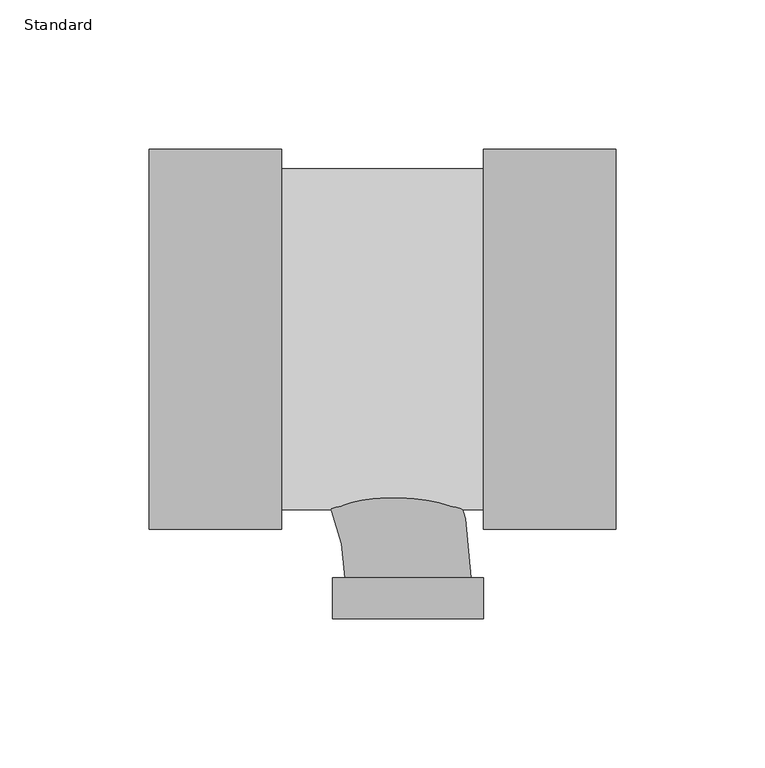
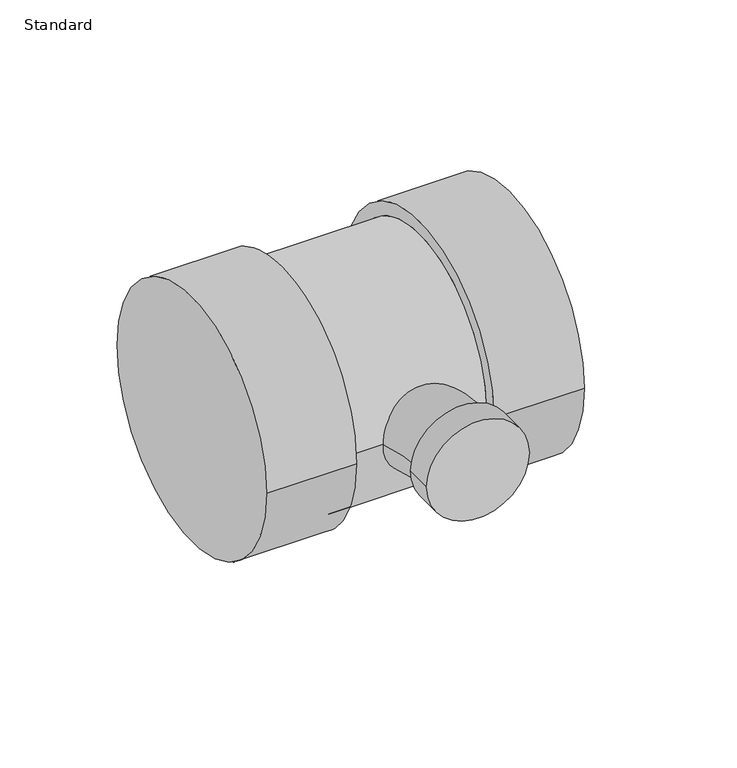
"""IFC4 building model written with IfcOpenShell, lengths in millimetres: pipe fitting geometry, EG-RCAN Té sanitaire de réduction - PVC - Nom. 40 - DWV : Standard."""

from ifc_helpers import new_model, si_unit, point, frame, origin, place, context, project, spatial, circle_curve, ellipse_curve, trimmed, source, transform, mapped, element, save
from ifc_brep_helpers import plane_surface, cylinder_surface, revolved_surface, advanced_brep


def standard_27500dea(model_context):
    return source(origin(), model_context, "Body", "AdvancedBrep", [
        advanced_brep(
        [(25.2677492, -63.754, 0.0), (25.2677492, 63.754, 0.0), (25.2677492, -57.15, 0.0), (25.2677492, 57.15, 0.0), (69.7177492, -63.754, 0.0), (69.7177492, 63.754, 0.0), (-42.4599062, 57.15, 0.0), (-42.4599062, -57.15, 0.0), (-86.9099063, -63.754, 0.0), (-86.9099062, 63.754, 0.0), (-42.4599063, -63.754, 0.0), (-42.4599062, 63.754, 0.0)],
        [
            (0, 1, circle_curve(frame((25.2677492, 0.0, 0.0), z_axis=(-1.0, 0.0, 0.0), x_axis=(0.0, 1.0, 0.0)), 63.754)),
            (1, 0, circle_curve(frame((25.2677492, 0.0, 0.0), z_axis=(-1.0, 0.0, 0.0), x_axis=(0.0, 1.0, 0.0)), 63.754)),
            (2, 3, circle_curve(frame((25.2677492, 0.0, 0.0), z_axis=(1.0, 0.0, 0.0), x_axis=(0.0, 0.0, -1.0)), 57.15)),
            (3, 2, circle_curve(frame((25.2677492, 0.0, 0.0), z_axis=(1.0, 0.0, 0.0), x_axis=(0.0, 0.0, 1.0)), 57.15)),
            (4, 5, circle_curve(frame((69.7177492, 0.0, 0.0), z_axis=(1.0, 0.0, 0.0), x_axis=(0.0, 1.0, 0.0)), 63.754)),
            (5, 4, circle_curve(frame((69.7177492, 0.0, 0.0), z_axis=(1.0, 0.0, 0.0), x_axis=(0.0, 1.0, 0.0)), 63.754)),
            (0, 4),
            (5, 1),
            (6, 3),
            (2, 7),
            (7, 6, circle_curve(frame((-42.4599063, 0.0, 0.0), z_axis=(1.0, 0.0, 0.0), x_axis=(0.0, 0.0, -1.0)), 57.15)),
            (6, 7, circle_curve(frame((-42.4599062, 0.0, 0.0), z_axis=(1.0, 0.0, 0.0), x_axis=(0.0, 0.0, 1.0)), 57.15)),
            (8, 9, circle_curve(frame((-86.9099062, 0.0, 0.0), z_axis=(-1.0, 0.0, 0.0), x_axis=(0.0, 1.0, 0.0)), 63.754)),
            (9, 8, circle_curve(frame((-86.9099062, 0.0, 0.0), z_axis=(-1.0, 0.0, 0.0), x_axis=(0.0, 1.0, 0.0)), 63.754)),
            (10, 11, circle_curve(frame((-42.4599062, 0.0, 0.0), z_axis=(1.0, 0.0, 0.0), x_axis=(0.0, 1.0, 0.0)), 63.754)),
            (11, 10, circle_curve(frame((-42.4599062, 0.0, 0.0), z_axis=(1.0, 0.0, 0.0), x_axis=(0.0, 1.0, 0.0)), 63.754)),
            (8, 10),
            (11, 9),
        ],
        [
            plane_surface(frame((25.2677492, 0.0, 0.0), z_axis=(-1.0, 0.0, 0.0), x_axis=(0.0, 0.0, 1.0))),
            plane_surface(frame((69.7177492, 0.0, 0.0), z_axis=(1.0, 0.0, 0.0), x_axis=(0.0, 0.0, 1.0))),
            cylinder_surface(frame((25.2677492, 0.0, 0.0), z_axis=(-1.0, 0.0, 0.0), x_axis=(0.0, 1.0, 0.0)), 63.754),
            cylinder_surface(frame((-42.4599062, 0.0, 0.0), z_axis=(1.0, 0.0, 0.0), x_axis=(0.0, 0.0, -1.0)), 57.15),
            cylinder_surface(frame((-42.4599062, 0.0, 0.0), z_axis=(1.0, 0.0, 0.0), x_axis=(0.0, 0.0, 1.0)), 57.15),
            plane_surface(frame((-86.9099062, 0.0, 0.0), z_axis=(-1.0, 0.0, 0.0), x_axis=(0.0, 0.0, 1.0))),
            plane_surface(frame((-42.4599062, 0.0, 0.0), z_axis=(1.0, 0.0, 0.0), x_axis=(0.0, 0.0, 1.0))),
            cylinder_surface(frame((-86.9099062, 0.0, 0.0), z_axis=(-1.0, 0.0, 0.0), x_axis=(0.0, 1.0, 0.0)), 63.754),
        ],
        [
            (0, [[1, 2], [3, 4]]),
            (1, [[5, 6]]),
            (2, [[-1, 7, -6, 8]]),
            (2, [[-2, -8, -5, -7]]),
            (3, [[9, -3, 10, 11]]),
            (4, [[-9, 12, -10, -4]]),
            (5, [[13, 14]]),
            (6, [[15, 16], [-11, -12]]),
            (7, [[-13, 17, -16, 18]]),
            (7, [[-14, -18, -15, -17]]),
        ],
    ),
        advanced_brep(
        [(-25.2664695, -80.0278583, 0.0), (25.2677492, -80.0274542, 0.0), (21.2047024, -80.0274867, 0.0), (-21.2034226, -80.0278258, 0.0), (-25.2663596, -93.7681708, 0.0), (25.2678591, -93.7677667, 0.0), (-80.0276562, -21.2040625, 0.0), (-80.0276562, 21.2040625, 0.0)],
        [
            (0, 1, circle_curve(frame((0.0006399, -80.0276562, 0.0), z_axis=(-7.99567824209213e-06, 0.9999999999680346, 0.0), x_axis=(0.9999999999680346, 7.99567824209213e-06, 0.0)), 25.2671094)),
            (1, 0, circle_curve(frame((0.0006399, -80.0276562, 0.0), z_axis=(-7.99567824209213e-06, 0.9999999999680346, 0.0), x_axis=(0.9999999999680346, 7.99567824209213e-06, 0.0)), 25.2671094)),
            (2, 3, circle_curve(frame((0.0006399, -80.0276562, 0.0), z_axis=(7.99567824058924e-06, -0.9999999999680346, 0.0), x_axis=(0.9999999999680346, 7.99567824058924e-06, 0.0)), 21.2040625)),
            (3, 2, circle_curve(frame((0.0006399, -80.0276562, 0.0), z_axis=(7.99567824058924e-06, -0.9999999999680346, 0.0), x_axis=(0.9999999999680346, 7.99567824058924e-06, 0.0)), 21.2040625)),
            (4, 5, circle_curve(frame((0.0007497, -93.7679687, 0.0), z_axis=(7.99567824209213e-06, -0.9999999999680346, 0.0), x_axis=(0.9999999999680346, 7.99567824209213e-06, 0.0)), 25.2671094)),
            (5, 4, circle_curve(frame((0.0007497, -93.7679687, 0.0), z_axis=(7.99567824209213e-06, -0.9999999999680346, 0.0), x_axis=(0.9999999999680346, 7.99567824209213e-06, 0.0)), 25.2671094)),
            (0, 4),
            (5, 1),
            (6, 7, circle_curve(frame((-80.0276562, 0.0, 0.0), z_axis=(-1.0, 0.0, 0.0), x_axis=(0.0, 1.0, 0.0)), 21.2040625)),
            (7, 6, circle_curve(frame((-80.0276562, 0.0, 0.0), z_axis=(-1.0, 0.0, 0.0), x_axis=(0.0, 1.0, 0.0)), 21.2040625)),
            (6, 3, circle_curve(frame((-80.0276562, -80.0282961, 0.0), z_axis=(0.0, 0.0, -1.0), x_axis=(0.0, 1.0, 0.0)), 58.8242336)),
            (2, 7, circle_curve(frame((-80.0276562, -80.0282961, 0.0), z_axis=(0.0, 0.0, 1.0), x_axis=(0.0, 1.0, 0.0)), 101.2323586)),
        ],
        [
            plane_surface(frame((0.0006399, -80.0276562, 0.0), z_axis=(-7.99567824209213e-06, 0.9999999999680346, 0.0), x_axis=(0.0, 0.0, 1.0))),
            plane_surface(frame((0.0007497, -93.7679687, 0.0), z_axis=(7.99567824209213e-06, -0.9999999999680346, 0.0), x_axis=(0.0, 0.0, 1.0))),
            cylinder_surface(frame((0.0006399, -80.0276562, 0.0), z_axis=(-7.99567824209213e-06, 0.9999999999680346, 0.0), x_axis=(0.9999999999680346, 7.99567824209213e-06, 0.0)), 25.2671094),
            plane_surface(frame((-80.0276562, 0.0, 0.0), z_axis=(-1.0, 0.0, 0.0), x_axis=(0.0, 0.0, 1.0))),
            revolved_surface(trimmed(ellipse_curve(frame((-80.0276562, 0.0, 0.0), z_axis=(-1.0, 0.0, 0.0), x_axis=(0.0, 1.0, 0.0)), 21.2040625, 21.2040625), [point((-80.0276562, -21.2040625, 0.0))], [point((-80.0276562, 21.2040625, 0.0))], True, "CARTESIAN"), (-80.0276562, -80.0282961, 0.0), (0.0, 0.0, -1.0)),
            revolved_surface(trimmed(ellipse_curve(frame((-80.0276562, 0.0, 0.0), z_axis=(-1.0, 0.0, 0.0), x_axis=(0.0, 1.0, 0.0)), 21.2040625, 21.2040625), [point((-80.0276562, 21.2040625, 0.0))], [point((-80.0276562, -21.2040625, 0.0))], True, "CARTESIAN"), (-80.0276562, -80.0282961, 0.0), (0.0, 0.0, -1.0)),
        ],
        [
            (0, [[1, 2], [3, 4]]),
            (1, [[5, 6]]),
            (2, [[-1, 7, -6, 8]]),
            (2, [[-2, -8, -5, -7]]),
            (3, [[9, 10]]),
            (4, [[-9, 11, -3, 12]]),
            (5, [[-10, -12, -4, -11]]),
        ],
    ),
    ])


if __name__ == "__main__":
    model = new_model("IFC4")
    model_context = context("Model", 3, world=origin())
    ifc_project = project(units=[si_unit("LENGTHUNIT", "METRE", prefix="MILLI")], contexts=[model_context])
    site = spatial("IfcSite", under=ifc_project)
    building = spatial("IfcBuilding", under=site)
    placement = place(None, origin())
    standard_shape = standard_27500dea(model_context)
    element("IfcPipeFitting", 1, ObjectType="EG-RCAN Té sanitaire de réduction - PVC - Nom. 40 - DWV : Standard", at=placement, inside=building, context=model_context, shape_type="MappedRepresentation", body=[
        mapped(standard_shape, transform((0.0, 0.0, 0.0), x_axis=(1.0, 0.0, 0.0), y_axis=(0.0, 1.0, 0.0), z_axis=(0.0, 0.0, 1.0))),
    ])
    save(model, "model.ifc")
